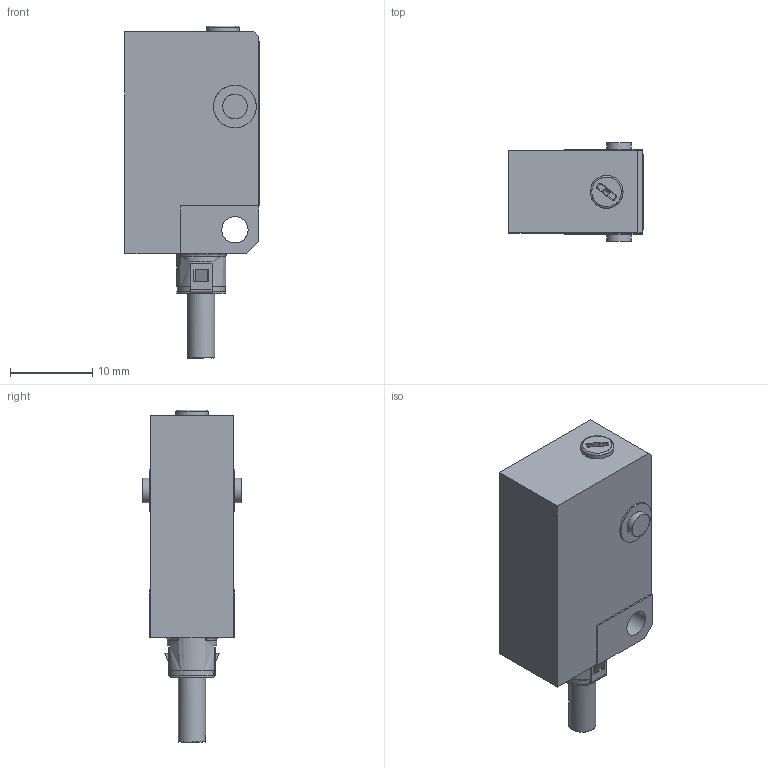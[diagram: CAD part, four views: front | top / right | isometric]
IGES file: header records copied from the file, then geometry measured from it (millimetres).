
Start section: C
Global section: file name: OHDK 10.igs; native system:  By UGS Corp.; preprocessor: XPlus GENERIC/IGES 3.0; author: Author; organization: Title; date: 20160202.102957; units: millimetre
Bounding box: 16.35 x 12 x 40.4 mm (x, y, z)
Surface area: 2085.6 mm2 (no closed solid volume)
Topology: 0 solids, 0 shells, 121 faces, 642 edges, 642 vertices
Faces by surface type: bspline 121
